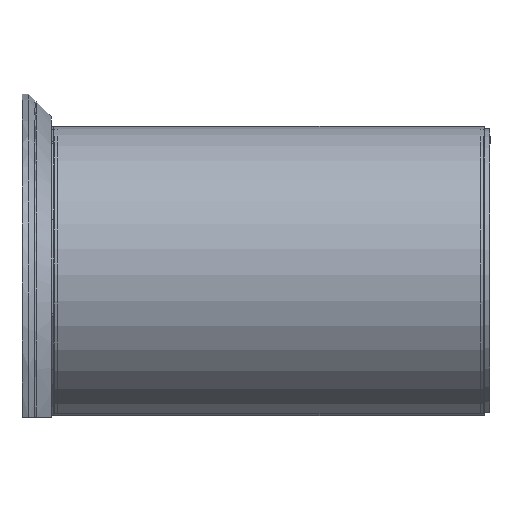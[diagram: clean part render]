
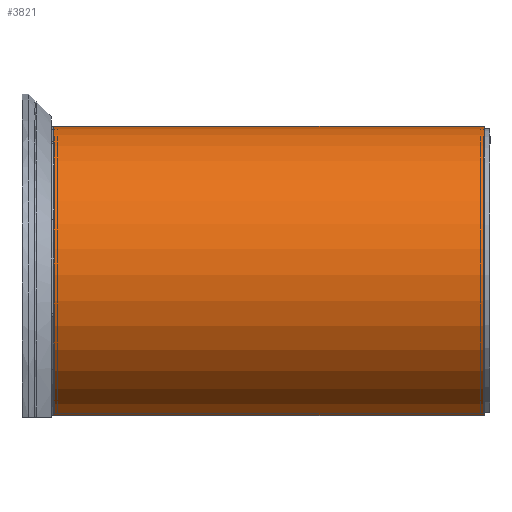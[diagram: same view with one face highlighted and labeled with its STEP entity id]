
A CAD part, left-side view. The second image highlights one B-rep face of the part: STEP entity #3821.
In plain terms, the highlighted cylindrical face has radius 230 mm (diameter 460 mm), a partial arc.
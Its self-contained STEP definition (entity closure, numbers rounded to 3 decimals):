
#206 = CARTESIAN_POINT ( 'NONE',  ( 2., 665., 0. ) ) ;
#624 = EDGE_CURVE ( 'NONE', #5489, #8739, #9429, .T. ) ;
#627 = LINE ( 'NONE', #5753, #2876 ) ;
#875 = AXIS2_PLACEMENT_3D ( 'NONE', #1074, #5625, #6401 ) ;
#948 = AXIS2_PLACEMENT_3D ( 'NONE', #206, #8390, #994 ) ;
#994 = DIRECTION ( 'NONE',  ( 0., 0., 1. ) ) ;
#1074 = CARTESIAN_POINT ( 'NONE',  ( 2., 665., 0. ) ) ;
#1311 = AXIS2_PLACEMENT_3D ( 'NONE', #6386, #6586, #2784 ) ;
#1369 = DIRECTION ( 'NONE',  ( 0., -1., 0. ) ) ;
#2738 = DIRECTION ( 'NONE',  ( 0., -1., 0. ) ) ;
#2769 = CARTESIAN_POINT ( 'NONE',  ( 2., 665., -230. ) ) ;
#2784 = DIRECTION ( 'NONE',  ( 0., 0., 1. ) ) ;
#2876 = VECTOR ( 'NONE', #2738, 1000. ) ;
#2993 = ORIENTED_EDGE ( 'NONE', *, *, #6523, .F. ) ;
#3305 = EDGE_CURVE ( 'NONE', #5489, #3336, #5168, .T. ) ;
#3336 = VERTEX_POINT ( 'NONE', #2769 ) ;
#3567 = VECTOR ( 'NONE', #1369, 1000. ) ;
#3821 = ADVANCED_FACE ( 'NONE', ( #8667 ), #5532, .T. ) ;
#4341 = CARTESIAN_POINT ( 'NONE',  ( 2., 665., 230. ) ) ;
#4380 = ORIENTED_EDGE ( 'NONE', *, *, #624, .T. ) ;
#5168 = CIRCLE ( 'NONE', #948, 230. ) ;
#5178 = VERTEX_POINT ( 'NONE', #7754 ) ;
#5489 = VERTEX_POINT ( 'NONE', #7832 ) ;
#5531 = CIRCLE ( 'NONE', #1311, 230. ) ;
#5532 = CYLINDRICAL_SURFACE ( 'NONE', #875, 230. ) ;
#5625 = DIRECTION ( 'NONE',  ( 0., -1., 0. ) ) ;
#5650 = EDGE_LOOP ( 'NONE', ( #6270, #2993, #6227, #4380 ) ) ;
#5753 = CARTESIAN_POINT ( 'NONE',  ( 2., 665., -230. ) ) ;
#6227 = ORIENTED_EDGE ( 'NONE', *, *, #3305, .F. ) ;
#6270 = ORIENTED_EDGE ( 'NONE', *, *, #6518, .T. ) ;
#6386 = CARTESIAN_POINT ( 'NONE',  ( 2., 0., 0. ) ) ;
#6401 = DIRECTION ( 'NONE',  ( 0., 0., -1. ) ) ;
#6518 = EDGE_CURVE ( 'NONE', #8739, #5178, #5531, .T. ) ;
#6523 = EDGE_CURVE ( 'NONE', #3336, #5178, #627, .T. ) ;
#6586 = DIRECTION ( 'NONE',  ( 0., 1., 0. ) ) ;
#7754 = CARTESIAN_POINT ( 'NONE',  ( 2., 0., -230. ) ) ;
#7832 = CARTESIAN_POINT ( 'NONE',  ( 2., 665., 230. ) ) ;
#8390 = DIRECTION ( 'NONE',  ( 0., 1., 0. ) ) ;
#8667 = FACE_OUTER_BOUND ( 'NONE', #5650, .T. ) ;
#8739 = VERTEX_POINT ( 'NONE', #8816 ) ;
#8816 = CARTESIAN_POINT ( 'NONE',  ( 2., 0., 230. ) ) ;
#9429 = LINE ( 'NONE', #4341, #3567 ) ;
